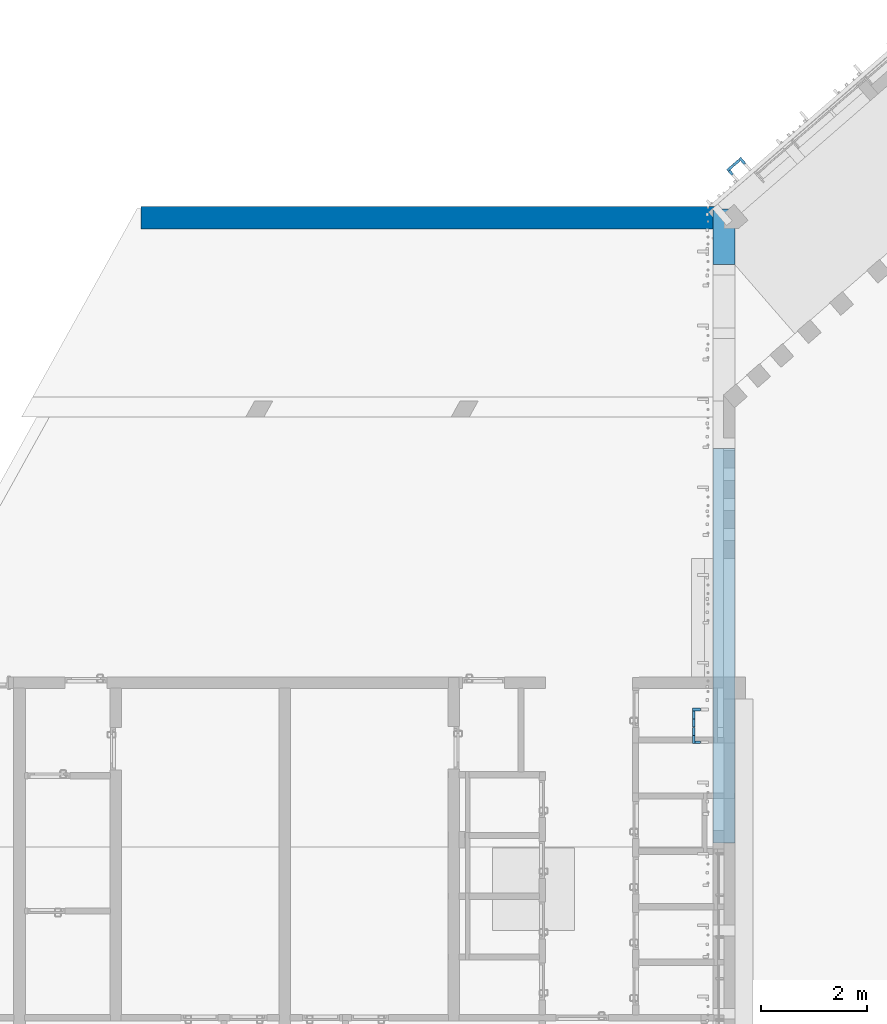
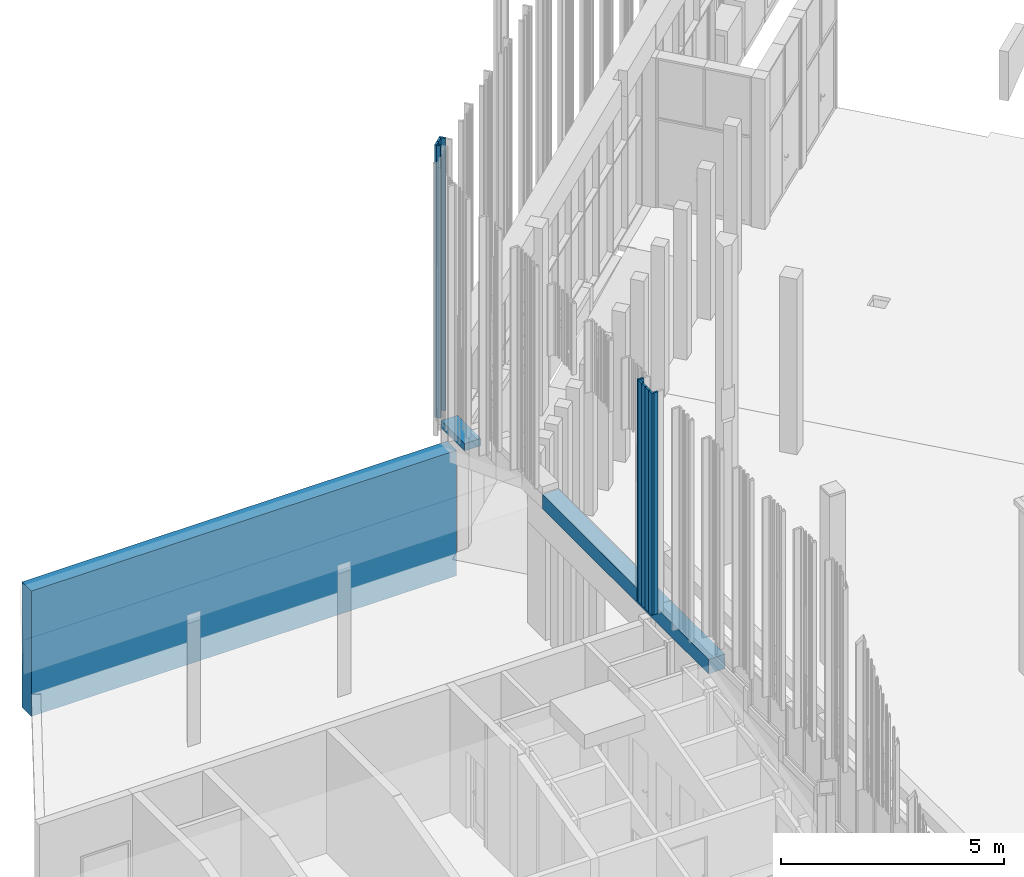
# One storey, part 10 of 390: 13 walls.
"""IFC2X3 building model written with IfcOpenShell, lengths in millimetres."""

from ifc_helpers import new_model, entity, si_unit, converted_unit, derived_unit, money_unit, direction, frame, origin_with_axes, origin_2d_with_axis, place, context, subcontext, project, spatial, polyline, rectangle, outline, extrude, material, layer, layer_set, layer_usage, type_object, element, save


model = new_model("IFC2X3")

# Units and contexts
model_context = context("Model", 3, precision=1e-05, world=origin_with_axes(), true_north=direction((0.0, 1.0)))
body_context = subcontext(model_context, "Body", "Model", "MODEL_VIEW")
ifc_project = project(units=[si_unit("LENGTHUNIT", "METRE", prefix="MILLI"), si_unit("AREAUNIT", "SQUARE_METRE"), si_unit("VOLUMEUNIT", "CUBIC_METRE"), converted_unit("PLANEANGLEUNIT", "DEGREE", entity("IfcPlaneAngleMeasure", 0.0174532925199), si_unit("PLANEANGLEUNIT", "RADIAN"), dimensions=[0, 0, 0, 0, 0, 0, 0]), si_unit("SOLIDANGLEUNIT", "STERADIAN"), money_unit("EUR"), converted_unit("TIMEUNIT", "Year", entity("IfcTimeMeasure", 31556926.0), si_unit("TIMEUNIT", "SECOND"), dimensions=[0, 0, 1, 0, 0, 0, 0]), si_unit("MASSUNIT", "GRAM", prefix="KILO"), si_unit("THERMODYNAMICTEMPERATUREUNIT", "DEGREE_CELSIUS"), si_unit("LUMINOUSINTENSITYUNIT", "LUMEN"), si_unit("ENERGYUNIT", "JOULE", prefix="MEGA"), derived_unit("THERMALCONDUCTANCEUNIT", [(si_unit("POWERUNIT", "WATT"), 1), (si_unit("LENGTHUNIT", "METRE"), -1), (si_unit("THERMODYNAMICTEMPERATUREUNIT", "KELVIN"), -1)]), derived_unit("SPECIFICHEATCAPACITYUNIT", [(si_unit("ENERGYUNIT", "JOULE"), 1), (si_unit("MASSUNIT", "GRAM", prefix="KILO"), -1), (si_unit("THERMODYNAMICTEMPERATUREUNIT", "KELVIN"), -1)]), derived_unit("MASSDENSITYUNIT", [(si_unit("MASSUNIT", "GRAM", prefix="KILO"), 1), (si_unit("VOLUMEUNIT", "CUBIC_METRE"), -1)])], contexts=[model_context])

# Site, building, storey
site_placement = place(None, origin_with_axes())
site = spatial("IfcSite", under=ifc_project, at=site_placement, Name="Site", CompositionType="ELEMENT")
building_placement = place(site_placement, origin_with_axes())
building = spatial("IfcBuilding", under=site, at=building_placement, Name="Building", CompositionType="ELEMENT")
storey_placement = place(building_placement, origin_with_axes())
storey = spatial("IfcBuildingStorey", under=building, at=storey_placement, Name="1 korrus", CompositionType="ELEMENT", Elevation=0.0)

# Walls
ifc_material_1 = material(Name="Krohv - Lubjakivi")
ifc_layer_1 = layer(ifc_material_1, 10.0, ventilated="UNKNOWN")
ifc_material_2 = material(Name="Raudbetoon - Konstruktsioon")
ifc_layer_2 = layer(ifc_material_2, 200.0, ventilated="UNKNOWN")
ifc_material_3 = material(Name="Membraan - Veekindel")
ifc_layer_3 = layer(ifc_material_3, 0.0, ventilated="UNKNOWN")
ifc_material_4 = material(Name="Soojustus - Plastik Kõva")
ifc_layer_4 = layer(ifc_material_4, 150.0, ventilated="UNKNOWN")
ifc_layer_5 = layer(ifc_material_4, 50.0, ventilated="UNKNOWN")
ifc_layer_6 = layer(ifc_material_3, 5.0, ventilated="UNKNOWN")
ifc_layer_7 = layer(ifc_material_3, 5.0, ventilated="UNKNOWN")
ifc_layer_set_1 = layer_set([ifc_layer_1, ifc_layer_2, ifc_layer_3, ifc_layer_4, ifc_layer_5, ifc_layer_6, ifc_layer_7], Name="VS-03")
ifc_layer_usage_1 = layer_usage(ifc_layer_set_1, "AXIS2", "POSITIVE", 0.0)
wall_type_1 = type_object("IfcWallType", Name="VS-03", PredefinedType="NOTDEFINED")
wall_1_placement = place(storey_placement, frame((111669.901028, 75990.0000104, -1220.0), z_axis=(0.0, 0.0, 1.0), x_axis=(1.0, 0.0, 0.0)))
element("IfcWallStandardCase", 1, at=wall_1_placement, inside=storey, type_object=wall_type_1, material=ifc_layer_usage_1, Name="VS-03", context=body_context, shape_type="SweptSolid", body=[
    extrude(outline(polyline([(0.0, 0.0), (11005.1984312, 0.0), (11005.1984312, 420.0), (0.0, 420.0), (0.0, 0.0)])), origin_with_axes(), (0.0, 0.0, 1.0), 3430.0),
])
ifc_layer_usage_2 = layer_usage(ifc_layer_set_1, "AXIS2", "POSITIVE", 0.0)
wall_2_placement = place(storey_placement, frame((122909.999995, 64370.5869238, 3200.23675989), z_axis=(0.0, 0.0, 1.0), x_axis=(0.0, 1.0, 0.0)))
element("IfcWallStandardCase", 2, at=wall_2_placement, inside=storey, type_object=wall_type_1, material=ifc_layer_usage_2, Name="VS-03", context=body_context, shape_type="SweptSolid", body=[
    extrude(outline(polyline([(0.0, 0.0), (7458.40490746, 0.0), (7458.40490746, 420.0), (0.0, 420.0), (0.0, 0.0)])), origin_with_axes(), (0.0, 0.0, 1.0), 394.763240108),
])
ifc_layer_8 = layer(ifc_material_1, 10.0, ventilated="UNKNOWN")
ifc_layer_9 = layer(ifc_material_2, 200.0, ventilated="UNKNOWN")
ifc_layer_10 = layer(ifc_material_3, 0.0, ventilated="UNKNOWN")
ifc_layer_11 = layer(ifc_material_4, 150.0, ventilated="UNKNOWN")
ifc_layer_12 = layer(ifc_material_4, 50.0, ventilated="UNKNOWN")
ifc_material_5 = material(Name="Plaat - Sein")
ifc_layer_13 = layer(ifc_material_5, 8.0, ventilated="UNKNOWN")
ifc_layer_set_2 = layer_set([ifc_layer_8, ifc_layer_9, ifc_layer_10, ifc_layer_11, ifc_layer_12, ifc_layer_13], Name="VS-05")
ifc_layer_usage_3 = layer_usage(ifc_layer_set_2, "AXIS2", "POSITIVE", 0.0)
wall_type_2 = type_object("IfcWallType", Name="VS-05", PredefinedType="NOTDEFINED")
wall_3_placement = place(storey_placement, frame((122909.999995, 75313.9918312, 2665.0), z_axis=(0.0, 0.0, 1.0), x_axis=(0.0, 1.0, 0.0)))
element("IfcWallStandardCase", 3, at=wall_3_placement, inside=storey, type_object=wall_type_2, material=ifc_layer_usage_3, Name="VS-05", context=body_context, shape_type="SweptSolid", body=[
    extrude(outline(polyline([(0.0, 0.0), (1048.51708442, 0.0), (1048.51708442, 418.0), (0.0, 418.0), (0.0, 0.0)])), origin_with_axes(), (0.0, 0.0, 1.0), 200.0),
])
ifc_material_6 = material(Name="Site specified")
wall_type_3 = type_object("IfcWallType", Name="Puitfassaadi ribisik", PredefinedType="NOTDEFINED")
wall_4_placement = place(storey_placement, frame((122832.4906, 77051.5732222, 2409.0), z_axis=(0.0, 0.0, 1.0), x_axis=(0.754709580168, 0.656059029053, 0.0)))
element("IfcWall", 4, at=wall_4_placement, inside=storey, type_object=wall_type_3, material=ifc_material_6, Name="Site specified", context=body_context, shape_type="SweptSolid", body=[
    extrude(rectangle(XDim=50.0, YDim=100.000069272, at=origin_2d_with_axis()), origin_with_axes(), (0.0, 0.0, 1.0), 7456.0),
])
wall_5_placement = place(storey_placement, frame((122821.021654, 77140.9794396, 2409.0), z_axis=(0.0, 0.0, 1.0), x_axis=(-0.656059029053, 0.754709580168, 0.0)))
element("IfcWall", 5, at=wall_5_placement, inside=storey, type_object=wall_type_3, material=ifc_material_6, Name="Site specified", context=body_context, shape_type="SweptSolid", body=[
    extrude(rectangle(XDim=50.0, YDim=150.0, at=origin_2d_with_axis()), origin_with_axes(), (0.0, 0.0, 1.0), 7456.0),
])
for number, where, z_axis, x_axis, name in (
    (6, (122132.999931, 66635.0001293, 3795.0), (0.0, 0.0, 1.0), (-1.0, 1.92421320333e-07, 0.0), "Site specified"),
    (7, (122132.999961, 66790.0001293, 3795.0), (0.0, 0.0, 1.0), (-1.0, 1.92421320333e-07, 0.0), "Site specified"),
    (8, (122182.999981, 66895.0001197, 3795.0), (0.0, 0.0, 1.0), (1.92421249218e-07, 1.0, 0.0), "Site specified"),
):
    element("IfcWall", number, at=place(storey_placement, frame(where, z_axis=z_axis, x_axis=x_axis)), inside=storey, type_object=wall_type_3, material=ifc_material_6, Name=name, context=body_context, shape_type="SweptSolid", body=[
        extrude(rectangle(XDim=50.0, YDim=150.0, at=origin_2d_with_axis()), origin_with_axes(), (0.0, 0.0, 1.0), 6069.9999949),
    ])
wall_6_placement = place(storey_placement, frame((122207.999965, 66275.0000499, 3795.0), z_axis=(0.0, 0.0, 1.0), x_axis=(1.92421249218e-07, 1.0, 0.0)))
element("IfcWall", 9, at=wall_6_placement, inside=storey, type_object=wall_type_3, material=ifc_material_6, Name="Site specified", context=body_context, shape_type="SweptSolid", body=[
    extrude(rectangle(XDim=50.0, YDim=100.000069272, at=origin_2d_with_axis()), origin_with_axes(), (0.0, 0.0, 1.0), 6069.9999949),
])
wall_7_placement = place(storey_placement, frame((122132.99994, 66325.0000968, 3795.0), z_axis=(0.0, 0.0, 1.0), x_axis=(-1.0, 1.92421320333e-07, 0.0)))
element("IfcWall", 10, at=wall_7_placement, inside=storey, type_object=wall_type_3, material=ifc_material_6, Name="Site specified", context=body_context, shape_type="SweptSolid", body=[
    extrude(rectangle(XDim=50.0, YDim=150.0, at=origin_2d_with_axis()), origin_with_axes(), (0.0, 0.0, 1.0), 6069.9999949),
])
for number, where, z_axis, x_axis, name in (
    (11, (123050.049096, 77273.8193081, 2409.0), (0.0, 0.0, 1.0), (0.754709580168, 0.656059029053, 0.0), "Site specified"),
    (12, (122938.001639, 77242.6685891, 2409.0), (0.0, 0.0, 1.0), (-0.656059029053, 0.754709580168, 0.0), "Site specified"),
):
    element("IfcWall", number, at=place(storey_placement, frame(where, z_axis=z_axis, x_axis=x_axis)), inside=storey, type_object=wall_type_3, material=ifc_material_6, Name=name, context=body_context, shape_type="SweptSolid", body=[
        extrude(rectangle(XDim=50.0, YDim=150.0, at=origin_2d_with_axis()), origin_with_axes(), (0.0, 0.0, 1.0), 7456.0),
    ])
wall_8_placement = place(storey_placement, frame((122132.99997, 66480.0000968, 3795.0), z_axis=(0.0, 0.0, 1.0), x_axis=(-1.0, 1.92421320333e-07, 0.0)))
element("IfcWall", 13, at=wall_8_placement, inside=storey, type_object=wall_type_3, material=ifc_material_6, Name="Site specified", context=body_context, shape_type="SweptSolid", body=[
    extrude(rectangle(XDim=50.0, YDim=150.0, at=origin_2d_with_axis()), origin_with_axes(), (0.0, 0.0, 1.0), 6069.9999949),
])

save(model, "model.ifc")
